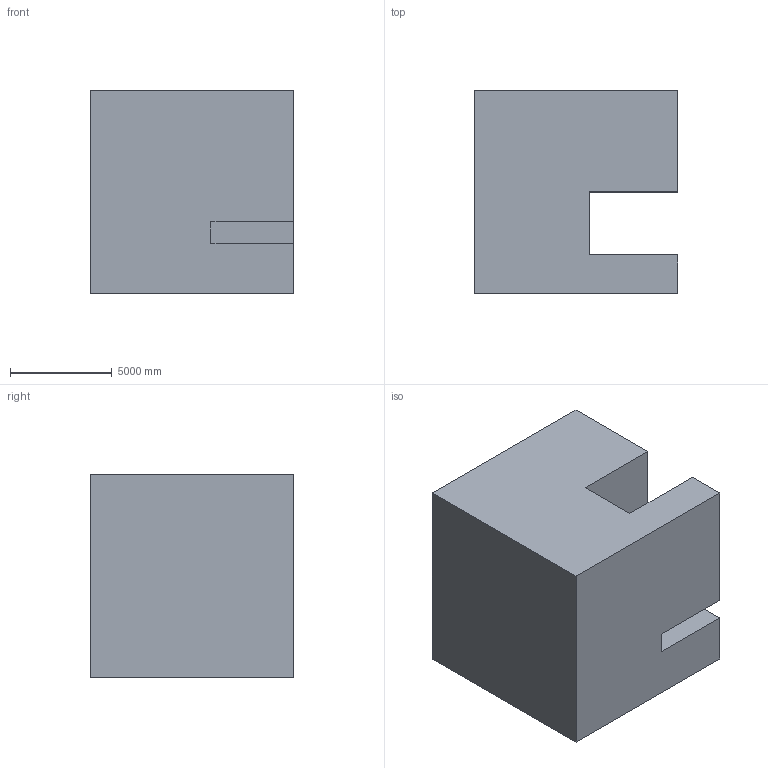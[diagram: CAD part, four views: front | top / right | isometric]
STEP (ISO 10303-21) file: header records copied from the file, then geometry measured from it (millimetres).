
FILE_DESCRIPTION (( 'STEP AP203' ), '1' );
FILE_NAME ('126.STEP', '2022-07-28T13:40:54', ( 'user' ), ( '' ), 'SwSTEP 2.0', 'SolidWorks 2021', '' );
FILE_SCHEMA (( 'CONFIG_CONTROL_DESIGN' ));
Length unit declared in the file: centimetre
Products named in the file (1): 126
Bounding box: 10000 x 10000 x 10000 mm (x, y, z)
Volume: 856551961359.9 mm3; surface area: 666974930.2 mm2
Topology: 1 solids, 1 shells, 14 faces, 36 edges, 24 vertices
Faces by surface type: plane 14
Entity records: 497 total; most frequent: CARTESIAN_POINT 75, ORIENTED_EDGE 72, DIRECTION 66, LINE 36, VECTOR 36, EDGE_CURVE 36, VERTEX_POINT 24, AXIS2_PLACEMENT_3D 15
